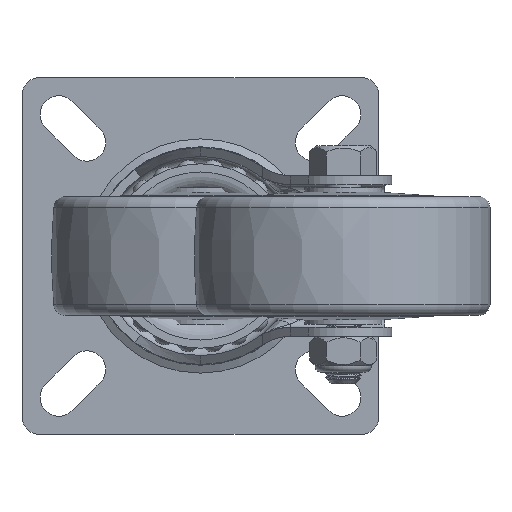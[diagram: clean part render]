
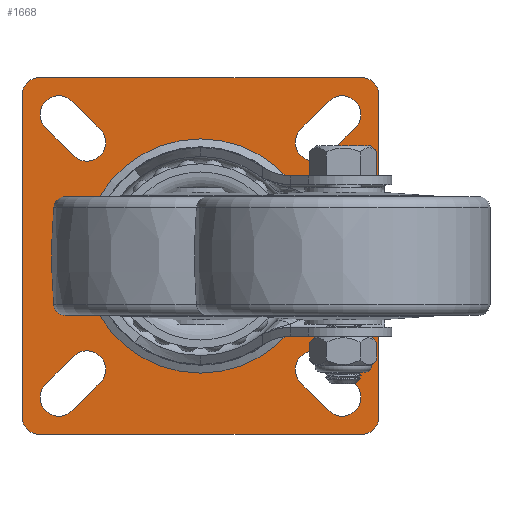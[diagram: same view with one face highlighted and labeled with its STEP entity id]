
A CAD part, front view. The second image highlights one B-rep face of the part: STEP entity #1668.
In plain terms, the highlighted planar face has unit normal (0, -1, 0).
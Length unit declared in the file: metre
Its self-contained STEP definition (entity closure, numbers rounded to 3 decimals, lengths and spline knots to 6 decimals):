
#1668=ADVANCED_FACE('',(#3749,#3750,#3751,#3752,#3753,#3754),#3755,.F.);
#3749=FACE_OUTER_BOUND('',#6491,.T.);
#3750=FACE_BOUND('',#6492,.T.);
#3751=FACE_BOUND('',#6493,.T.);
#3752=FACE_BOUND('',#6494,.T.);
#3753=FACE_BOUND('',#6495,.T.);
#3754=FACE_BOUND('',#6496,.T.);
#3755=PLANE('',#6497);
#6491=EDGE_LOOP('',(#16364,#16365,#16366,#16367,#16368,#16369,#16370,#16371));
#6492=EDGE_LOOP('',(#16372));
#6493=EDGE_LOOP('',(#16373,#16374,#16375,#16376));
#6494=EDGE_LOOP('',(#16377,#16378,#16379,#16380));
#6495=EDGE_LOOP('',(#16381,#16382,#16383,#16384));
#6496=EDGE_LOOP('',(#16385,#16386,#16387,#16388));
#6497=AXIS2_PLACEMENT_3D('',#16389,#16390,#16391);
#16364=ORIENTED_EDGE('',*,*,#19914,.F.);
#16365=ORIENTED_EDGE('',*,*,#19915,.T.);
#16366=ORIENTED_EDGE('',*,*,#19916,.F.);
#16367=ORIENTED_EDGE('',*,*,#19917,.T.);
#16368=ORIENTED_EDGE('',*,*,#19918,.F.);
#16369=ORIENTED_EDGE('',*,*,#19919,.T.);
#16370=ORIENTED_EDGE('',*,*,#19920,.F.);
#16371=ORIENTED_EDGE('',*,*,#19921,.T.);
#16372=ORIENTED_EDGE('',*,*,#19922,.F.);
#16373=ORIENTED_EDGE('',*,*,#19923,.T.);
#16374=ORIENTED_EDGE('',*,*,#19924,.T.);
#16375=ORIENTED_EDGE('',*,*,#19925,.T.);
#16376=ORIENTED_EDGE('',*,*,#19926,.T.);
#16377=ORIENTED_EDGE('',*,*,#19927,.T.);
#16378=ORIENTED_EDGE('',*,*,#19928,.T.);
#16379=ORIENTED_EDGE('',*,*,#19929,.T.);
#16380=ORIENTED_EDGE('',*,*,#19930,.T.);
#16381=ORIENTED_EDGE('',*,*,#19931,.T.);
#16382=ORIENTED_EDGE('',*,*,#19932,.T.);
#16383=ORIENTED_EDGE('',*,*,#19933,.T.);
#16384=ORIENTED_EDGE('',*,*,#19934,.T.);
#16385=ORIENTED_EDGE('',*,*,#19935,.T.);
#16386=ORIENTED_EDGE('',*,*,#19936,.T.);
#16387=ORIENTED_EDGE('',*,*,#19937,.T.);
#16388=ORIENTED_EDGE('',*,*,#19938,.T.);
#16389=CARTESIAN_POINT('',(0.0,0.0,0.0));
#16390=DIRECTION('',(-0.0,1.0,0.0));
#16391=DIRECTION('',(1.0,0.0,0.0));
#19914=EDGE_CURVE('',#24526,#24527,#24528,.T.);
#19915=EDGE_CURVE('',#24526,#24529,#24530,.T.);
#19916=EDGE_CURVE('',#24531,#24529,#24532,.T.);
#19917=EDGE_CURVE('',#24531,#24533,#24534,.T.);
#19918=EDGE_CURVE('',#24535,#24533,#24536,.T.);
#19919=EDGE_CURVE('',#24535,#24537,#24538,.T.);
#19920=EDGE_CURVE('',#24539,#24537,#24540,.T.);
#19921=EDGE_CURVE('',#24539,#24527,#24541,.T.);
#19922=EDGE_CURVE('',#24542,#24542,#24543,.T.);
#19923=EDGE_CURVE('',#24544,#24545,#24546,.T.);
#19924=EDGE_CURVE('',#24545,#24547,#24548,.T.);
#19925=EDGE_CURVE('',#24547,#24549,#24550,.T.);
#19926=EDGE_CURVE('',#24549,#24544,#24551,.T.);
#19927=EDGE_CURVE('',#24552,#24553,#24554,.T.);
#19928=EDGE_CURVE('',#24553,#24555,#24556,.T.);
#19929=EDGE_CURVE('',#24555,#24557,#24558,.T.);
#19930=EDGE_CURVE('',#24557,#24552,#24559,.T.);
#19931=EDGE_CURVE('',#24560,#24561,#24562,.T.);
#19932=EDGE_CURVE('',#24561,#24563,#24564,.T.);
#19933=EDGE_CURVE('',#24563,#24565,#24566,.T.);
#19934=EDGE_CURVE('',#24565,#24560,#24567,.T.);
#19935=EDGE_CURVE('',#24568,#24569,#24570,.T.);
#19936=EDGE_CURVE('',#24569,#24571,#24572,.T.);
#19937=EDGE_CURVE('',#24571,#24573,#24574,.T.);
#19938=EDGE_CURVE('',#24573,#24568,#24575,.T.);
#24526=VERTEX_POINT('',#32141);
#24527=VERTEX_POINT('',#32142);
#24528=LINE('',#32143,#32144);
#24529=VERTEX_POINT('',#32145);
#24530=CIRCLE('',#32146,0.003);
#24531=VERTEX_POINT('',#32147);
#24532=LINE('',#32148,#32149);
#24533=VERTEX_POINT('',#32150);
#24534=CIRCLE('',#32151,0.003);
#24535=VERTEX_POINT('',#32152);
#24536=LINE('',#32153,#32154);
#24537=VERTEX_POINT('',#32155);
#24538=CIRCLE('',#32156,0.003);
#24539=VERTEX_POINT('',#32157);
#24540=LINE('',#32158,#32159);
#24541=CIRCLE('',#32160,0.003);
#24542=VERTEX_POINT('',#32161);
#24543=CIRCLE('',#32162,0.012494);
#24544=VERTEX_POINT('',#32163);
#24545=VERTEX_POINT('',#32164);
#24546=CIRCLE('',#32165,0.00315);
#24547=VERTEX_POINT('',#32166);
#24548=LINE('',#32167,#32168);
#24549=VERTEX_POINT('',#32169);
#24550=CIRCLE('',#32170,0.00315);
#24551=LINE('',#32171,#32172);
#24552=VERTEX_POINT('',#32173);
#24553=VERTEX_POINT('',#32174);
#24554=LINE('',#32175,#32176);
#24555=VERTEX_POINT('',#32177);
#24556=CIRCLE('',#32178,0.00315);
#24557=VERTEX_POINT('',#32179);
#24558=LINE('',#32180,#32181);
#24559=CIRCLE('',#32182,0.00315);
#24560=VERTEX_POINT('',#32183);
#24561=VERTEX_POINT('',#32184);
#24562=LINE('',#32185,#32186);
#24563=VERTEX_POINT('',#32187);
#24564=CIRCLE('',#32188,0.00315);
#24565=VERTEX_POINT('',#32189);
#24566=LINE('',#32190,#32191);
#24567=CIRCLE('',#32192,0.00315);
#24568=VERTEX_POINT('',#32193);
#24569=VERTEX_POINT('',#32194);
#24570=CIRCLE('',#32195,0.00315);
#24571=VERTEX_POINT('',#32196);
#24572=LINE('',#32197,#32198);
#24573=VERTEX_POINT('',#32199);
#24574=CIRCLE('',#32200,0.00315);
#24575=LINE('',#32201,#32202);
#32141=CARTESIAN_POINT('',(0.03,0.0,0.027));
#32142=CARTESIAN_POINT('',(0.03,0.0,-0.027));
#32143=CARTESIAN_POINT('',(0.03,0.0,0.027));
#32144=VECTOR('',#37756,1.0);
#32145=CARTESIAN_POINT('',(0.027,0.0,0.03));
#32146=AXIS2_PLACEMENT_3D('',#37757,#37758,#37759);
#32147=CARTESIAN_POINT('',(-0.027,0.0,0.03));
#32148=CARTESIAN_POINT('',(-0.027,0.0,0.03));
#32149=VECTOR('',#37760,1.0);
#32150=CARTESIAN_POINT('',(-0.03,0.0,0.027));
#32151=AXIS2_PLACEMENT_3D('',#37761,#37762,#37763);
#32152=CARTESIAN_POINT('',(-0.03,0.0,-0.027));
#32153=CARTESIAN_POINT('',(-0.03,0.0,-0.027));
#32154=VECTOR('',#37764,1.0);
#32155=CARTESIAN_POINT('',(-0.027,0.0,-0.03));
#32156=AXIS2_PLACEMENT_3D('',#37765,#37766,#37767);
#32157=CARTESIAN_POINT('',(0.027,0.0,-0.03));
#32158=CARTESIAN_POINT('',(0.027,0.0,-0.03));
#32159=VECTOR('',#37768,1.0);
#32160=AXIS2_PLACEMENT_3D('',#37769,#37770,#37771);
#32161=CARTESIAN_POINT('',(0.012494,0.,0.0));
#32162=AXIS2_PLACEMENT_3D('',#37772,#37773,#37774);
#32163=CARTESIAN_POINT('',(0.021327,0.0,0.016873));
#32164=CARTESIAN_POINT('',(0.016873,0.0,0.021327));
#32165=AXIS2_PLACEMENT_3D('',#37775,#37776,#37777);
#32166=CARTESIAN_POINT('',(0.021573,0.0,0.026027));
#32167=CARTESIAN_POINT('',(0.016873,0.0,0.021327));
#32168=VECTOR('',#37778,1.0);
#32169=CARTESIAN_POINT('',(0.026027,0.0,0.021573));
#32170=AXIS2_PLACEMENT_3D('',#37779,#37780,#37781);
#32171=CARTESIAN_POINT('',(0.026027,0.0,0.021573));
#32172=VECTOR('',#37782,1.0);
#32173=CARTESIAN_POINT('',(-0.021573,0.0,0.026027));
#32174=CARTESIAN_POINT('',(-0.016873,0.0,0.021327));
#32175=CARTESIAN_POINT('',(-0.021573,0.0,0.026027));
#32176=VECTOR('',#37783,1.0);
#32177=CARTESIAN_POINT('',(-0.021327,0.0,0.016873));
#32178=AXIS2_PLACEMENT_3D('',#37784,#37785,#37786);
#32179=CARTESIAN_POINT('',(-0.026027,0.0,0.021573));
#32180=CARTESIAN_POINT('',(-0.021327,0.0,0.016873));
#32181=VECTOR('',#37787,1.0);
#32182=AXIS2_PLACEMENT_3D('',#37788,#37789,#37790);
#32183=CARTESIAN_POINT('',(0.021573,0.0,-0.026027));
#32184=CARTESIAN_POINT('',(0.016873,0.0,-0.021327));
#32185=CARTESIAN_POINT('',(0.021573,0.0,-0.026027));
#32186=VECTOR('',#37791,1.0);
#32187=CARTESIAN_POINT('',(0.021327,0.0,-0.016873));
#32188=AXIS2_PLACEMENT_3D('',#37792,#37793,#37794);
#32189=CARTESIAN_POINT('',(0.026027,0.0,-0.021573));
#32190=CARTESIAN_POINT('',(0.021327,0.0,-0.016873));
#32191=VECTOR('',#37795,1.0);
#32192=AXIS2_PLACEMENT_3D('',#37796,#37797,#37798);
#32193=CARTESIAN_POINT('',(-0.021327,0.0,-0.016873));
#32194=CARTESIAN_POINT('',(-0.016873,0.0,-0.021327));
#32195=AXIS2_PLACEMENT_3D('',#37799,#37800,#37801);
#32196=CARTESIAN_POINT('',(-0.021573,0.0,-0.026027));
#32197=CARTESIAN_POINT('',(-0.016873,0.0,-0.021327));
#32198=VECTOR('',#37802,1.0);
#32199=CARTESIAN_POINT('',(-0.026027,0.0,-0.021573));
#32200=AXIS2_PLACEMENT_3D('',#37803,#37804,#37805);
#32201=CARTESIAN_POINT('',(-0.026027,0.0,-0.021573));
#32202=VECTOR('',#37806,1.0);
#37756=DIRECTION('',(0.0,0.0,-1.0));
#37757=CARTESIAN_POINT('',(0.027,0.0,0.027));
#37758=DIRECTION('',(0.0,-1.0,0.0));
#37759=DIRECTION('',(1.0,0.0,0.0));
#37760=DIRECTION('',(1.0,0.0,0.0));
#37761=CARTESIAN_POINT('',(-0.027,0.0,0.027));
#37762=DIRECTION('',(0.0,-1.0,0.0));
#37763=DIRECTION('',(0.0,0.0,1.0));
#37764=DIRECTION('',(0.0,0.0,1.0));
#37765=CARTESIAN_POINT('',(-0.027,0.0,-0.027));
#37766=DIRECTION('',(0.0,-1.0,0.0));
#37767=DIRECTION('',(-1.0,0.0,0.0));
#37768=DIRECTION('',(-1.0,0.0,0.0));
#37769=CARTESIAN_POINT('',(0.027,0.0,-0.027));
#37770=DIRECTION('',(0.0,-1.0,0.0));
#37771=DIRECTION('',(0.0,0.0,-1.0));
#37772=CARTESIAN_POINT('',(0.0,0.,0.0));
#37773=DIRECTION('',(0.0,-1.0,0.0));
#37774=DIRECTION('',(1.0,0.0,0.0));
#37775=CARTESIAN_POINT('',(0.0191,0.0,0.0191));
#37776=DIRECTION('',(0.0,1.0,0.0));
#37777=DIRECTION('',(0.707,0.0,-0.707));
#37778=DIRECTION('',(0.707,0.0,0.707));
#37779=CARTESIAN_POINT('',(0.0238,0.0,0.0238));
#37780=DIRECTION('',(0.0,1.0,0.0));
#37781=DIRECTION('',(-0.707,0.0,0.707));
#37782=DIRECTION('',(-0.707,0.0,-0.707));
#37783=DIRECTION('',(0.707,0.0,-0.707));
#37784=CARTESIAN_POINT('',(-0.0191,0.0,0.0191));
#37785=DIRECTION('',(-0.0,1.0,0.0));
#37786=DIRECTION('',(0.707,0.0,0.707));
#37787=DIRECTION('',(-0.707,0.0,0.707));
#37788=CARTESIAN_POINT('',(-0.0238,0.0,0.0238));
#37789=DIRECTION('',(0.0,1.0,0.0));
#37790=DIRECTION('',(-0.707,0.0,-0.707));
#37791=DIRECTION('',(-0.707,0.0,0.707));
#37792=CARTESIAN_POINT('',(0.0191,0.0,-0.0191));
#37793=DIRECTION('',(0.0,1.0,0.0));
#37794=DIRECTION('',(-0.707,0.0,-0.707));
#37795=DIRECTION('',(0.707,0.0,-0.707));
#37796=CARTESIAN_POINT('',(0.0238,0.0,-0.0238));
#37797=DIRECTION('',(-0.0,1.0,0.0));
#37798=DIRECTION('',(0.707,0.0,0.707));
#37799=CARTESIAN_POINT('',(-0.0191,0.0,-0.0191));
#37800=DIRECTION('',(0.0,1.0,0.0));
#37801=DIRECTION('',(-0.707,0.0,0.707));
#37802=DIRECTION('',(-0.707,0.0,-0.707));
#37803=CARTESIAN_POINT('',(-0.0238,0.0,-0.0238));
#37804=DIRECTION('',(0.0,1.0,0.0));
#37805=DIRECTION('',(0.707,0.0,-0.707));
#37806=DIRECTION('',(0.707,0.0,0.707));
